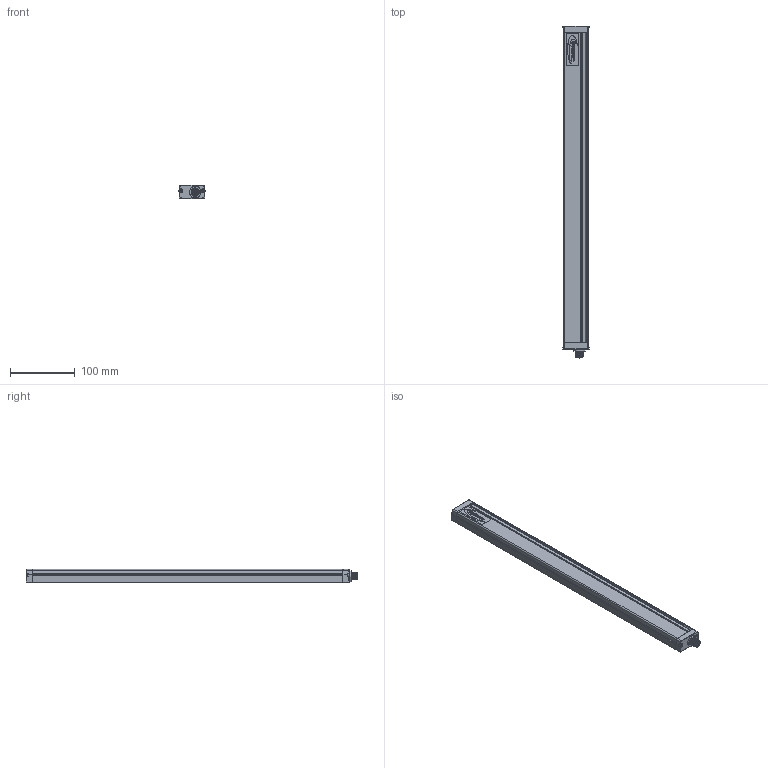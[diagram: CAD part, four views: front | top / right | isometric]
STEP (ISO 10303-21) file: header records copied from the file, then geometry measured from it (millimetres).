
FILE_DESCRIPTION(/* description */ (''),/* implementation_level */ '2;1');
FILE_NAME(/* name */ 'C:\Users\andre\SynologyDrive\Optoscan\Libreria Componenti\00 - Barriere\Polaris sorgente\Barriera Polaris RX\Polaris_480_RX.stp',/* time_stamp */ '2021-06-04T11:40:20+02:00',/* author */ ('andre'),/* organization */ (''),/* preprocessor_version */ 'ST-DEVELOPER v18',/* originating_system */ 'Autodesk Inventor 2020',/* authorisation */ '');
FILE_SCHEMA (('AUTOMOTIVE_DESIGN { 1 0 10303 214 3 1 1 }'));
Length unit declared in the file: millimetre
Products named in the file (1): Polaris_480_RX
Bounding box: 40.5 x 513.3 x 20.75 mm (x, y, z)
Volume: 104919.8 mm3; surface area: 134482.1 mm2
Topology: 1 solids, 1 shells, 700 faces, 1926 edges, 1237 vertices
Faces by surface type: plane 319, cylinder 199, bspline 94, torus 70, sphere 10, cone 8
Full cylindrical faces by diameter (mm): 1 x8, 2.459 x4, 2.5 x4, 3 x4, 3.5 x4, 5.5 x4, 8 x1, 10.5 x2, 11.75 x9, 15.7 x1, 17.5 x1
Entity records: 28472 total; most frequent: CARTESIAN_POINT 10246, ORIENTED_EDGE 3826, DIRECTION 3447, EDGE_CURVE 1913, VERTEX_POINT 1237, AXIS2_PLACEMENT_3D 1211, LINE 1025, VECTOR 1025
